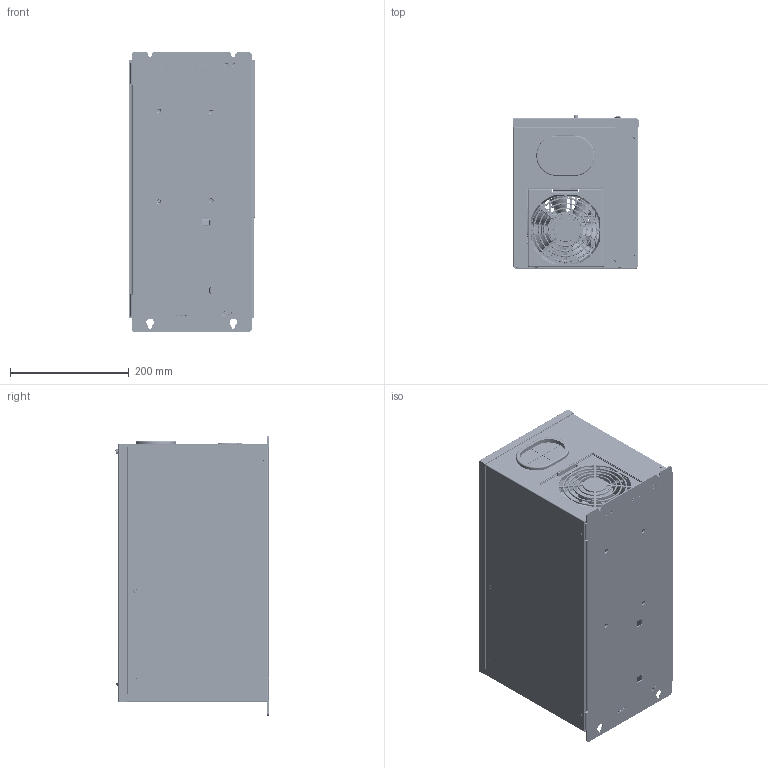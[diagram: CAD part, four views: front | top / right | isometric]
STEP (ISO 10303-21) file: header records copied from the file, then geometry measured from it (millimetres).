
FILE_DESCRIPTION((''),'2;1');
FILE_NAME('00-SD700-30_37KW-00_ASM','2022-05-27T',('v0214'),(''),'CREO PARAMETRIC BY PTC INC, 2016260','CREO PARAMETRIC BY PTC INC, 2016260','');
FILE_SCHEMA(('AP203_CONFIGURATION_CONTROLLED_3D_DESIGN_OF_MECHANICAL_PARTS_AND_ASSEMBLIES_MIM_LF { 1 0 10303 403 2 1 2 }'));
Products named in the file (119): FP40R12KE3G-1010010044; PCB0_ASM; F12038Z40D024_SM100-1390010010; PCB_SCU_2_1; SMG_1_1; SWITCH_6X6_1_1; 2X15P_PH2R54_SMT_1_1_1; 2X15P_PH2R54_SMT_1_2_1; 2X15P_PH2R54_SMT_1_3_1; 2X15P_PH2R54_SMT_1_4_1; 2X15P_PH2R54_SMT_1_5_1; 2X15P_PH2R54_SMT_1_6_1; 2X15P_PH2R54_SMT_1_7_1; 2X15P_PH2R54_SMT_1_8_1; 2X15P_PH2R54_SMT_1_9_1; 2X15P_PH2R54_SMT_1_10_1; 2X15P_PH2R54_SMT_1_11_1; 2X15P_PH2R54_SMT_1_12_1; 2X15P_PH2R54_SMT_1_13_1; 2X15P_PH2R54_SMT_1_14_1; 2X15P_PH2R54_SMT_1_15_1; 2X15P_PH2R54_SMT_1_16_1; 2X15P_PH2R54_SMT_1_17_1; 2X15P_PH2R54_SMT_1_18_1; 2X15P_PH2R54_SMT_1_19_1; 2X15P_PH2R54_SMT_1_20_1; 2X15P_PH2R54_SMT_1_21_1; 2X15P_PH2R54_SMT_1_22_1; 2X15P_PH2R54_SMT_1_23_1; 2X15P_PH2R54_SMT_1_24_1; 2X15P_PH2R54_SMT_1_25_1; 2X15P_PH2R54_SMT_1_26_1; 2X15P_PH2R54_SMT_1_27_1; 2X15P_PH2R54_SMT_1_28_1; 2X15P_PH2R54_SMT_1_29_1; 2X15P_PH2R54_SMT_1_30_1; 2X15P_PH2R54_SMT_1_31_1; 2X15P_PH2R54_SMT_1_ASM_1_ASM; PCB_SCU_ASM_1_ASM_1_ASM; AC300-T3-2R2G-D_ASM_2_ASM_2_ASM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
Assembly tree (184 placements, depth 10):
  00-SD700-30_37KW-00_ASM
    AC300-T3-037G-D_ASM
      AC300-T3-037G-A000_ASM
        PCB0_ASM
          FP40R12KE3G-1010010044
        F12038Z40D024_SM100-1390010010
        AC300G57R0G0-00000_ASM_ASM
          AC300-T3-2R2G-0000_ASM
            AC300-T3-2R2G-0000_ASM_29_ASM_1_ASM
              AC300-T3-2R2G-D_ASM_2_ASM_2_ASM
                PCB_SCU_ASM_1_ASM_1_ASM
                  PCB_SCU_2_1
                  SMG_1_1
                  SWITCH_6X6_1_1  x6
                  2X15P_PH2R54_SMT_1_ASM_1_ASM
              AC300-T3-2R2G-P_ASM_2_ASM_1_ASM
                AC300-T3-2R2G-P003_24_ASM_1_ASM
                  AC300-T3-2R2G-P003_24_1_1
                  AC300-T3-2R2G-P003_24_2_1
                  AC300-T3-2R2G-P003_24_3_1
                  AC300-T3-2R2G-P003_24_4_1
                  AC300-T3-2R2G-P003_24_5_1
                  AC300-T3-2R2G-P003_24_6_1
                  AC300-T3-2R2G-P003_24_7_1
                  AC300-T3-2R2G-P003_24_8_1
                  AC300-T3-2R2G-P003_24_9_1
            ELT-IDC-30A-2_54
        PCB-ZHIDONGDANYUAN
        22_ZHU-M4
        M5X14_GB9074_8  x3
        M4X10_GB9074_8
        DCL-90A-0R1MH
      LOOP-60X90
    AC300-T3-037G-P_ASM
      AC300-T3-037G-P007
      AC300-T3-037G-P009
      AC300-T3-037G-P010  x3
      AC300-T3-037G-N001
    SD700S07R0G0-00000_ASM
      SD700S07R0G0-A0000_ASM
        SD700CONTROL-A1_0_ASM
          1394-6P-NEW
          DSUB-15-3-F
          CONNECTER_50PIN
          SD700-RJ45
          PCB3
          MINI-USB
          PZ-2D0_90D-20P
          ELT-IDC-30P-2_54_ASM
      SD700S07R0G0-P0000_ASM
        SD700S07R0G0-P0005_ASM
          SD700-700D-P00
          SD700S07R0G0-P0004
    SD700-T3-037G-P_ASM
      SD700-T3-037G-P001_ASM
        SD700-T3-037G-P002_ASM
          SD700-T3-037G-P002P
          S-M4-2  x7
          TPS-4-8  x3
        SD700-T3-037G-P003_ASM
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Bounding box: 211 x 257.69 x 471 mm (x, y, z)
Volume: 2718568.3 mm3; surface area: 2418995.3 mm2
Topology: 153 solids, 159 shells, 19136 faces, 53181 edges, 36411 vertices
Faces by surface type: plane 11397, cylinder 3690, extrusion 1979, bspline 1036, cone 762, torus 208, sphere 64
Entity records: 713268 total; most frequent: CARTESIAN_POINT 184280, ORIENTED_EDGE 81702, DIRECTION 70553, EDGE_CURVE 40851, PRESENTATION_STYLE_ASSIGNMENT 38241, STYLED_ITEM 37102, CURVE_STYLE 36974, VECTOR 30933
